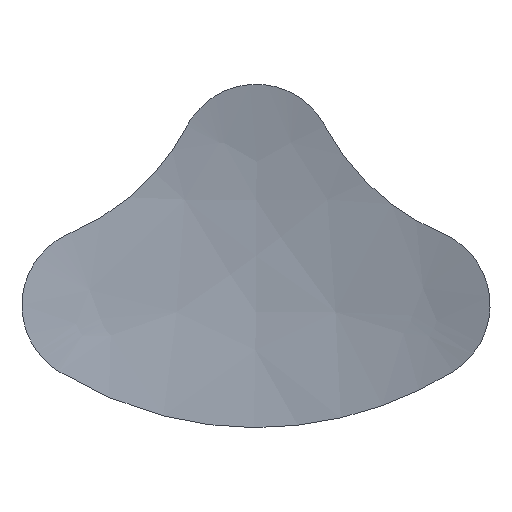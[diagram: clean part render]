
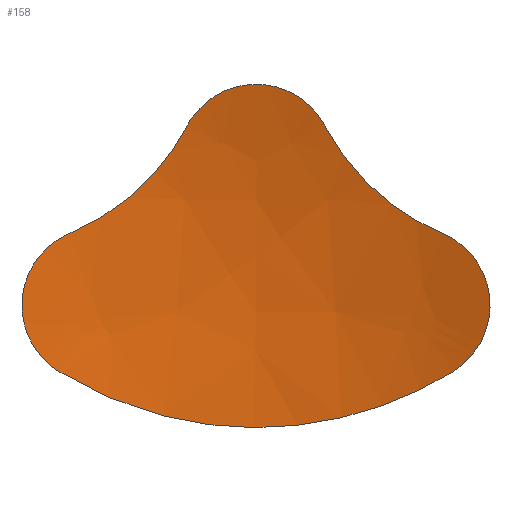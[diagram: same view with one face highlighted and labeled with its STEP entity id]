
A CAD part, top view. The second image highlights one B-rep face of the part: STEP entity #158.
In plain terms, the highlighted free-form (B-spline) face has degree [3, 3] with [4, 4] control points.
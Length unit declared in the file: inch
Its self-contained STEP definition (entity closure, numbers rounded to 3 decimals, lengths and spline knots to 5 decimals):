
#35=CARTESIAN_POINT('Control Point',(-2.77228,5.09025,1.58639)) ;
#36=CARTESIAN_POINT('Control Point',(-3.3875,2.80183,1.05057)) ;
#37=CARTESIAN_POINT('Control Point',(-3.72513,0.96984,1.23368)) ;
#38=CARTESIAN_POINT('Control Point',(-4.16377,-1.41017,1.47156)) ;
#39=CARTESIAN_POINT('Control Point',(-0.74702,5.0826,0.95104)) ;
#40=CARTESIAN_POINT('Control Point',(-1.08144,2.80183,0.08449)) ;
#41=CARTESIAN_POINT('Control Point',(-1.34377,0.96984,0.08449)) ;
#42=CARTESIAN_POINT('Control Point',(-1.68548,-1.41643,0.08449)) ;
#43=CARTESIAN_POINT('Control Point',(0.74702,5.0826,0.95104)) ;
#44=CARTESIAN_POINT('Control Point',(1.08144,2.80183,0.08449)) ;
#45=CARTESIAN_POINT('Control Point',(1.34377,0.96984,0.08449)) ;
#46=CARTESIAN_POINT('Control Point',(1.68548,-1.41643,0.08449)) ;
#47=CARTESIAN_POINT('Control Point',(2.77228,5.09025,1.58639)) ;
#48=CARTESIAN_POINT('Control Point',(3.3875,2.80183,1.05057)) ;
#49=CARTESIAN_POINT('Control Point',(3.72513,0.96984,1.23368)) ;
#50=CARTESIAN_POINT('Control Point',(4.16377,-1.41017,1.47156)) ;
#52=CARTESIAN_POINT('Control Point',(-2.34774,2.45245,0.85839)) ;
#53=CARTESIAN_POINT('Control Point',(-1.97897,2.60643,0.76837)) ;
#54=CARTESIAN_POINT('Control Point',(-1.63125,2.8249,0.71587)) ;
#55=CARTESIAN_POINT('Control Point',(-1.32293,3.10401,0.70341)) ;
#56=CARTESIAN_POINT('Control Point',(-1.06607,3.43345,0.72928)) ;
#57=CARTESIAN_POINT('Control Point',(-0.87136,3.80415,0.79268)) ;
#58=CARTESIAN_POINT('Vertex',(-2.34774,2.45245,0.85839)) ;
#60=CARTESIAN_POINT('Vertex',(-0.87136,3.80415,0.79268)) ;
#64=CARTESIAN_POINT('Control Point',(0.87136,3.80415,0.79268)) ;
#65=CARTESIAN_POINT('Control Point',(0.82955,3.88375,0.80629)) ;
#66=CARTESIAN_POINT('Control Point',(0.77931,3.95732,0.8185)) ;
#67=CARTESIAN_POINT('Control Point',(0.72228,4.02313,0.82912)) ;
#68=CARTESIAN_POINT('Control Point',(0.58589,4.15034,0.84919)) ;
#69=CARTESIAN_POINT('Control Point',(0.43269,4.23817,0.86239)) ;
#70=CARTESIAN_POINT('Control Point',(0.34598,4.27476,0.86778)) ;
#71=CARTESIAN_POINT('Control Point',(0.14965,4.33236,0.87618)) ;
#72=CARTESIAN_POINT('Control Point',(-0.05066,4.33852,0.87703)) ;
#73=CARTESIAN_POINT('Control Point',(-0.16095,4.32692,0.87537)) ;
#74=CARTESIAN_POINT('Control Point',(-0.35113,4.27971,0.86859)) ;
#75=CARTESIAN_POINT('Control Point',(-0.53115,4.18202,0.85392)) ;
#76=CARTESIAN_POINT('Control Point',(-0.6052,4.13072,0.84609)) ;
#77=CARTESIAN_POINT('Control Point',(-0.70857,4.03936,0.83177)) ;
#78=CARTESIAN_POINT('Control Point',(-0.79692,3.92697,0.81338)) ;
#79=CARTESIAN_POINT('Control Point',(-0.824,3.88795,0.8069)) ;
#80=CARTESIAN_POINT('Control Point',(-0.8489,3.84692,0.79999)) ;
#81=CARTESIAN_POINT('Control Point',(-0.87136,3.80415,0.79268)) ;
#82=CARTESIAN_POINT('Vertex',(0.87136,3.80415,0.79268)) ;
#86=CARTESIAN_POINT('Control Point',(0.87136,3.80415,0.79268)) ;
#87=CARTESIAN_POINT('Control Point',(1.06605,3.43349,0.72928)) ;
#88=CARTESIAN_POINT('Control Point',(1.32291,3.10403,0.70341)) ;
#89=CARTESIAN_POINT('Control Point',(1.63125,2.82489,0.71587)) ;
#90=CARTESIAN_POINT('Control Point',(1.97901,2.60641,0.76838)) ;
#91=CARTESIAN_POINT('Control Point',(2.34774,2.45245,0.85839)) ;
#92=CARTESIAN_POINT('Vertex',(2.34774,2.45245,0.85839)) ;
#96=CARTESIAN_POINT('Control Point',(2.48653,0.7073,0.77682)) ;
#97=CARTESIAN_POINT('Control Point',(2.58889,0.77065,0.80977)) ;
#98=CARTESIAN_POINT('Control Point',(2.6813,0.8495,0.84215)) ;
#99=CARTESIAN_POINT('Control Point',(2.76128,0.94208,0.87272)) ;
#100=CARTESIAN_POINT('Control Point',(2.87511,1.12424,0.92043)) ;
#101=CARTESIAN_POINT('Control Point',(2.93685,1.33394,0.9544)) ;
#102=CARTESIAN_POINT('Control Point',(2.95279,1.42758,0.96589)) ;
#103=CARTESIAN_POINT('Control Point',(2.96124,1.60947,0.98096)) ;
#104=CARTESIAN_POINT('Control Point',(2.92712,1.79194,0.98258)) ;
#105=CARTESIAN_POINT('Control Point',(2.90122,1.87672,0.98019)) ;
#106=CARTESIAN_POINT('Control Point',(2.81254,2.08058,0.96652)) ;
#107=CARTESIAN_POINT('Control Point',(2.671,2.25257,0.93579)) ;
#108=CARTESIAN_POINT('Control Point',(2.57062,2.33846,0.91238)) ;
#109=CARTESIAN_POINT('Control Point',(2.46153,2.40494,0.88617)) ;
#110=CARTESIAN_POINT('Control Point',(2.34774,2.45245,0.85839)) ;
#111=CARTESIAN_POINT('Vertex',(2.48653,0.7073,0.77682)) ;
#115=CARTESIAN_POINT('Control Point',(-2.48653,0.7073,0.77682)) ;
#116=CARTESIAN_POINT('Control Point',(-2.19431,0.52641,0.68275)) ;
#117=CARTESIAN_POINT('Control Point',(-1.88192,0.3698,0.59994)) ;
#118=CARTESIAN_POINT('Control Point',(-1.55119,0.24049,0.53129)) ;
#119=CARTESIAN_POINT('Control Point',(-0.80615,0.0287,0.41868)) ;
#120=CARTESIAN_POINT('Control Point',(-0.02027,-0.02829,0.38828)) ;
#121=CARTESIAN_POINT('Control Point',(0.40388,-0.01095,0.3975)) ;
#122=CARTESIAN_POINT('Control Point',(1.10362,0.09716,0.45517)) ;
#123=CARTESIAN_POINT('Control Point',(1.75732,0.32563,0.57643)) ;
#124=CARTESIAN_POINT('Control Point',(2.01236,0.43672,0.63525)) ;
#125=CARTESIAN_POINT('Control Point',(2.25573,0.56444,0.70253)) ;
#126=CARTESIAN_POINT('Control Point',(2.48653,0.7073,0.77682)) ;
#127=CARTESIAN_POINT('Vertex',(-2.48653,0.7073,0.77682)) ;
#131=CARTESIAN_POINT('Control Point',(-2.34774,2.45245,0.85839)) ;
#132=CARTESIAN_POINT('Control Point',(-2.42688,2.41941,0.87771)) ;
#133=CARTESIAN_POINT('Control Point',(-2.50374,2.37719,0.89627)) ;
#134=CARTESIAN_POINT('Control Point',(-2.57696,2.3257,0.91365)) ;
#135=CARTESIAN_POINT('Control Point',(-2.70761,2.20896,0.94375)) ;
#136=CARTESIAN_POINT('Control Point',(-2.81116,2.06363,0.96511)) ;
#137=CARTESIAN_POINT('Control Point',(-2.85335,1.98802,0.97292)) ;
#138=CARTESIAN_POINT('Control Point',(-2.9244,1.81926,0.98352)) ;
#139=CARTESIAN_POINT('Control Point',(-2.95498,1.6405,0.98109)) ;
#140=CARTESIAN_POINT('Control Point',(-2.95942,1.54556,0.97605)) ;
#141=CARTESIAN_POINT('Control Point',(-2.94523,1.34719,0.95796)) ;
#142=CARTESIAN_POINT('Control Point',(-2.88439,1.16266,0.92608)) ;
#143=CARTESIAN_POINT('Control Point',(-2.84018,1.07079,0.90589)) ;
#144=CARTESIAN_POINT('Control Point',(-2.751,0.93313,0.86897)) ;
#145=CARTESIAN_POINT('Control Point',(-2.63715,0.8179,0.82736)) ;
#146=CARTESIAN_POINT('Control Point',(-2.58985,0.77705,0.81078)) ;
#147=CARTESIAN_POINT('Control Point',(-2.53952,0.7401,0.79388)) ;
#148=CARTESIAN_POINT('Control Point',(-2.48653,0.7073,0.77682)) ;
#151=ORIENTED_EDGE('',*,*,#62,.T.) ;
#152=ORIENTED_EDGE('',*,*,#84,.T.) ;
#153=ORIENTED_EDGE('',*,*,#94,.T.) ;
#154=ORIENTED_EDGE('',*,*,#113,.T.) ;
#155=ORIENTED_EDGE('',*,*,#129,.T.) ;
#156=ORIENTED_EDGE('',*,*,#149,.T.) ;
#158=ADVANCED_FACE('Slab_Surface',(#157),#34,.T.) ;
#51=B_SPLINE_CURVE_WITH_KNOTS('',5,(#52,#53,#54,#55,#56,#57),.UNSPECIFIED.,.F.,.U.,(6,6),(0.,71.2723),.UNSPECIFIED.) ;
#63=B_SPLINE_CURVE_WITH_KNOTS('',5,(#64,#65,#66,#67,#68,#69,#70,#71,#72,#73,#74,#75,#76,#77,#78,#79,#80,#81),.UNSPECIFIED.,.F.,.U.,(6,3,3,3,3,6),(0.,15.30404,33.80729,56.52172,73.38045,81.60364),.UNSPECIFIED.) ;
#85=B_SPLINE_CURVE_WITH_KNOTS('',5,(#86,#87,#88,#89,#90,#91),.UNSPECIFIED.,.F.,.U.,(6,6),(0.,71.26512),.UNSPECIFIED.) ;
#95=B_SPLINE_CURVE_WITH_KNOTS('',5,(#96,#97,#98,#99,#100,#101,#102,#103,#104,#105,#106,#107,#108,#109,#110),.UNSPECIFIED.,.F.,.U.,(6,3,3,3,6),(0.,21.83063,38.14545,52.76437,74.75772),.UNSPECIFIED.) ;
#114=B_SPLINE_CURVE_WITH_KNOTS('',5,(#115,#116,#117,#118,#119,#120,#121,#122,#123,#124,#125,#126),.UNSPECIFIED.,.F.,.U.,(6,3,3,6),(0.,62.3234,134.49236,183.71499),.UNSPECIFIED.) ;
#130=B_SPLINE_CURVE_WITH_KNOTS('',5,(#131,#132,#133,#134,#135,#136,#137,#138,#139,#140,#141,#142,#143,#144,#145,#146,#147,#148),.UNSPECIFIED.,.F.,.U.,(6,3,3,3,3,6),(0.,15.29527,29.52728,45.48157,63.4583,74.76002),.UNSPECIFIED.) ;
#34=B_SPLINE_SURFACE_WITH_KNOTS('',3,3,((#35,#36,#37,#38),(#39,#40,#41,#42),(#43,#44,#45,#46),(#47,#48,#49,#50)),.UNSPECIFIED.,.F.,.F.,.U.,(4,4),(4,4),(0.,187.19783),(0.,139.59748),.UNSPECIFIED.) ;
#62=EDGE_CURVE('',#59,#61,#51,.T.) ;
#84=EDGE_CURVE('',#61,#83,#63,.F.) ;
#94=EDGE_CURVE('',#83,#93,#85,.T.) ;
#113=EDGE_CURVE('',#93,#112,#95,.F.) ;
#129=EDGE_CURVE('',#112,#128,#114,.F.) ;
#149=EDGE_CURVE('',#128,#59,#130,.F.) ;
#150=EDGE_LOOP('',(#151,#152,#153,#154,#155,#156)) ;
#157=FACE_OUTER_BOUND('',#150,.T.) ;
#59=VERTEX_POINT('',#58) ;
#61=VERTEX_POINT('',#60) ;
#83=VERTEX_POINT('',#82) ;
#93=VERTEX_POINT('',#92) ;
#112=VERTEX_POINT('',#111) ;
#128=VERTEX_POINT('',#127) ;
